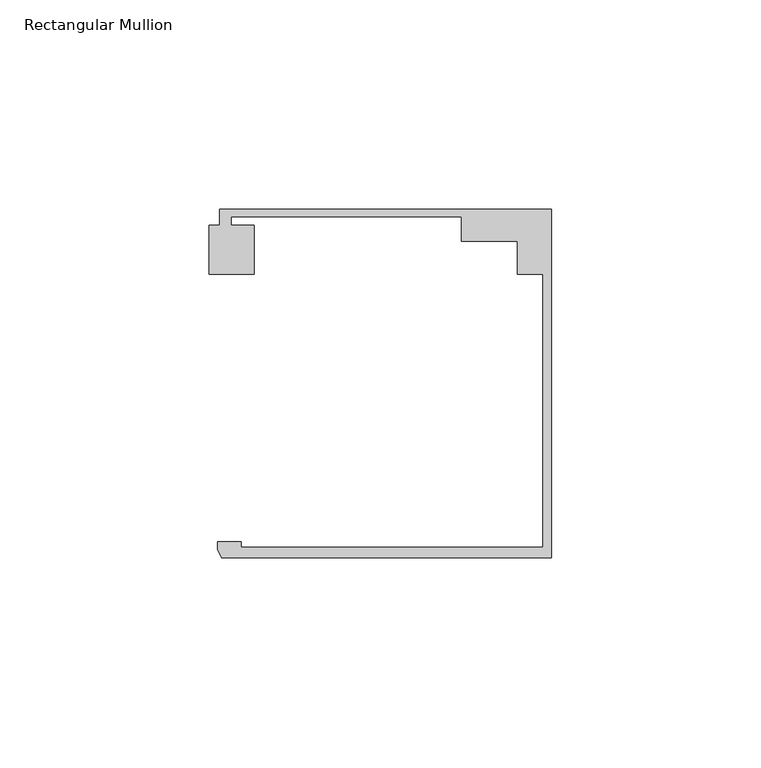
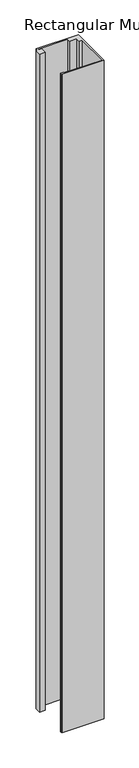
"""IFC4 building model written with IfcOpenShell, lengths in millimetres: member geometry, Rectangular Mullion : Danpal_Airpt_End-Mullion_B2."""

from ifc_helpers import new_model, si_unit, frame, origin, place, context, project, spatial, polyline, outline, extrude, source, transform, mapped, element, save


def rectangular_mullion_d58dc353(model_context):
    return source(origin(), model_context, "Body", "SweptSolid", [
        extrude(outline(polyline([(-2.0000001, -74.9940824), (-2.0000001, -9.7188964), (-8.1, -9.7188964), (-8.1, -1.8818054), (-21.5478166, -1.8818054), (-21.5478166, 4.0051512), (-76.6478166, 4.0051512), (-76.6478166, 2.0051513), (-71.1433532, 2.0051513), (-71.1433532, -9.6875514), (-81.8592324, -9.6875514), (-81.8592324, 2.0051513), (-79.3474874, 2.0051513), (-79.3474874, 5.8051514), (0.0, 5.8051514), (0.0, -77.4940825), (-78.8515009, -77.4940825), (-79.7784606, -75.5472671), (-79.7784606, -73.6940824), (-74.2474668, -73.6940824), (-74.2474668, -74.9940824), (-2.0000001, -74.9940824)])), frame((0.0, 0.0, -1300.0), z_axis=(0.0, 0.0, 1.0), x_axis=(1.0, 0.0, 0.0)), (0.0, 0.0, 1.0), 1300.0),
    ])


if __name__ == "__main__":
    model = new_model("IFC4")
    model_context = context("Model", 3, world=origin())
    ifc_project = project(units=[si_unit("LENGTHUNIT", "METRE", prefix="MILLI")], contexts=[model_context])
    site = spatial("IfcSite", under=ifc_project)
    building = spatial("IfcBuilding", under=site)
    placement = place(None, origin())
    rectangular_mullion_shape = rectangular_mullion_d58dc353(model_context)
    element("IfcMember", 1, ObjectType="Rectangular Mullion : Danpal_Airpt_End-Mullion_B2", at=placement, inside=building, context=model_context, shape_type="MappedRepresentation", body=[
        mapped(rectangular_mullion_shape, transform((0.0, 0.0, 0.0), x_axis=(1.0, 0.0, 0.0), y_axis=(0.0, 1.0, 0.0), z_axis=(0.0, 0.0, 1.0))),
    ])
    save(model, "model.ifc")
